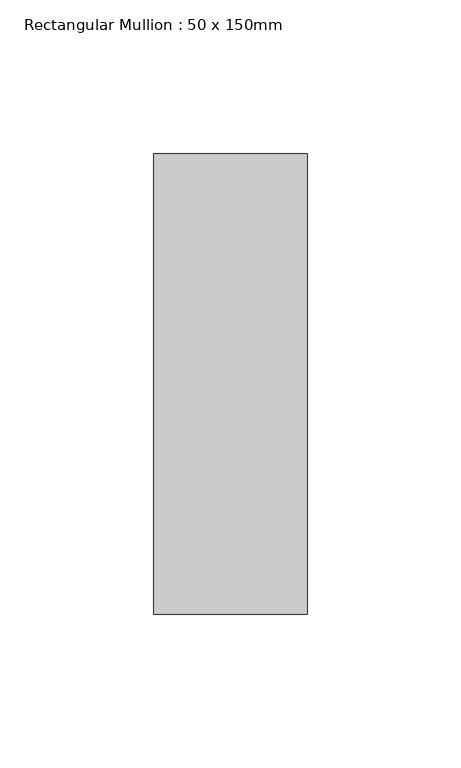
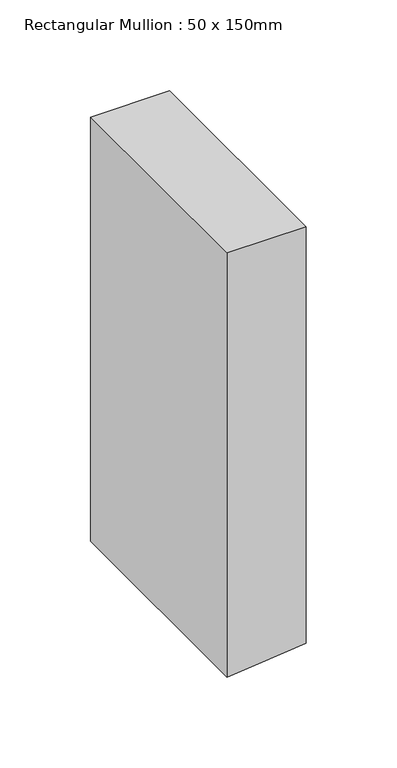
"""IFC4 building model written with IfcOpenShell, lengths in millimetres: member geometry, Rectangular Mullion : 50 x 150mm."""

from ifc_helpers import new_model, si_unit, frame, origin, place, context, project, spatial, polyline, outline, extrude, source, transform, mapped, element, save


def rectangular_mullion_50_x_150mm_05c94478(model_context):
    return source(origin(), model_context, "Body", "SweptSolid", [
        extrude(outline(polyline([(0.0, 25.0), (0.0, -25.0), (-284.7221025, -25.0), (-282.7113354, -5.0022633), (-279.6946158, 25.0), (0.0, 25.0)])), frame((0.0, -75.0, 0.0), z_axis=(0.0, 1.0, 0.0), x_axis=(0.0, 0.0, 1.0)), (0.0, 0.0, 1.0), 150.0),
    ])


if __name__ == "__main__":
    model = new_model("IFC4")
    model_context = context("Model", 3, world=origin())
    ifc_project = project(units=[si_unit("LENGTHUNIT", "METRE", prefix="MILLI")], contexts=[model_context])
    site = spatial("IfcSite", under=ifc_project)
    building = spatial("IfcBuilding", under=site)
    placement = place(None, origin())
    rectangular_mullion_50_x_150mm_shape = rectangular_mullion_50_x_150mm_05c94478(model_context)
    element("IfcMember", 1, ObjectType="Rectangular Mullion : 50 x 150mm", at=placement, inside=building, context=model_context, shape_type="MappedRepresentation", body=[
        mapped(rectangular_mullion_50_x_150mm_shape, transform((0.0, 0.0, 0.0), x_axis=(1.0, 0.0, 0.0), y_axis=(0.0, 1.0, 0.0), z_axis=(0.0, 0.0, 1.0))),
    ])
    save(model, "model.ifc")
